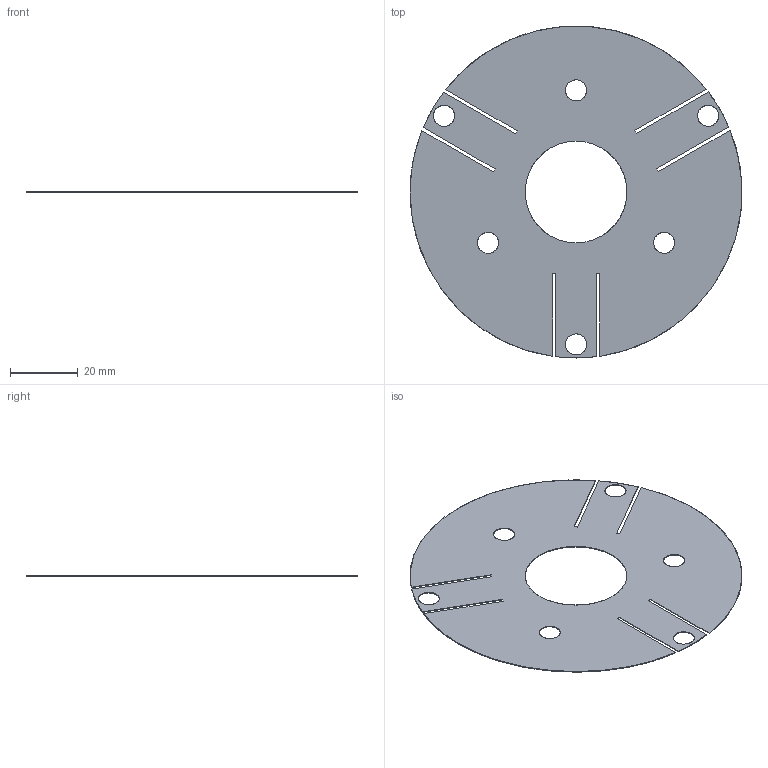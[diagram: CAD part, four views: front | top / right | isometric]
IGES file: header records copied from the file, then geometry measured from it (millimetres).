
Start section: SolidWorks IGES file using analytic representation for surfaces
Bounding box: 97.96 x 98 x 0.2 mm (x, y, z)
Surface area: 13176.1 mm2 (no closed solid volume)
Topology: 0 solids, 0 shells, 41 faces, 756 edges, 756 vertices
Faces by surface type: revolution 21, bspline 20
